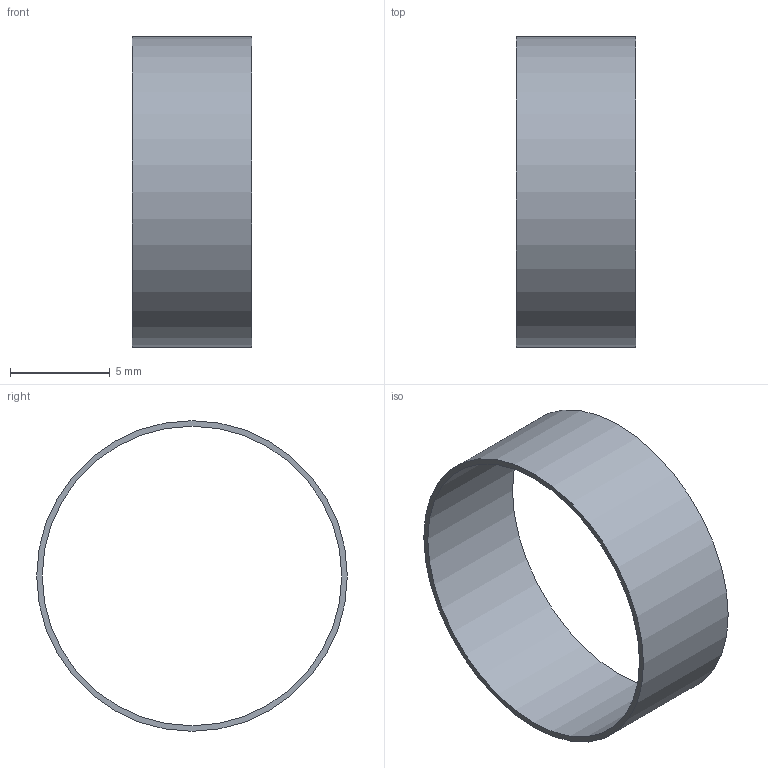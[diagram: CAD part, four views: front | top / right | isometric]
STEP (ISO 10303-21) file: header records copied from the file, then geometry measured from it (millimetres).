
FILE_DESCRIPTION(('Open CASCADE Model'),'2;1');
FILE_NAME('Open CASCADE Shape Model','2026-10-31T23:30:59',('Author'),( 'Open CASCADE'),'Open CASCADE STEP processor 7.9','Open CASCADE 7.9' ,'Unknown');
FILE_SCHEMA(('AUTOMOTIVE_DESIGN { 1 0 10303 214 1 1 1 1 }'));
Length unit declared in the file: millimetre
Products named in the file (1): Open CASCADE STEP translator 7.9 10
Bounding box: 6 x 15.56 x 15.56 mm (x, y, z)
Volume: 80.6 mm3; surface area: 602.9 mm2
Topology: 1 solids, 1 shells, 4 faces, 6 edges, 4 vertices
Faces by surface type: cylinder 2, plane 2
Full cylindrical faces by diameter (mm): 15 x1, 15.56 x1
Entity records: 186 total; most frequent: DIRECTION 32, CARTESIAN_POINT 27, ORIENTED_EDGE 12, PCURVE 12, DEFINITIONAL_REPRESENTATION 12, LINE 10, VECTOR 10, AXIS2_PLACEMENT_3D 9
